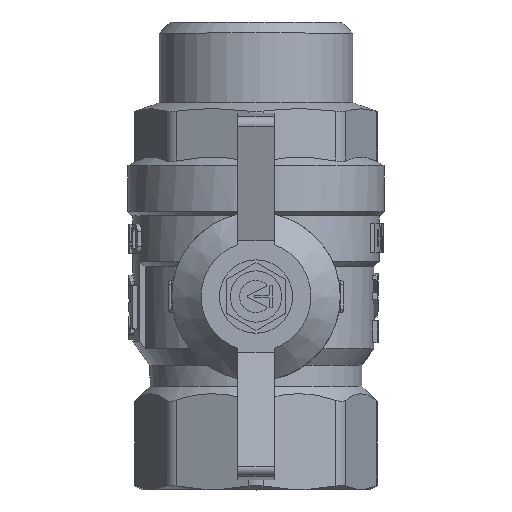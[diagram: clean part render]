
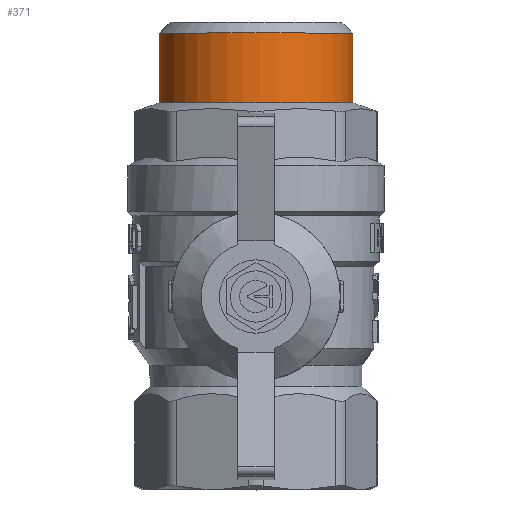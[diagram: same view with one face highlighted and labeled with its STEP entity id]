
A CAD part, top view. The second image highlights one B-rep face of the part: STEP entity #371.
In plain terms, the highlighted cylindrical face has radius 13.22 mm (diameter 26.441 mm), a full revolution.
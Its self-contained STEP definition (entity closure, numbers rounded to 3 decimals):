
#371=ADVANCED_FACE('',(#2688,#2690),#2692,.T.);
#2688=FACE_OUTER_BOUND('',#2689,.T.);
#2689=EDGE_LOOP('',(#4403));
#2690=FACE_OUTER_BOUND('',#2691,.T.);
#2691=EDGE_LOOP('',(#4404));
#2692=CYLINDRICAL_SURFACE('',#2693,13.221);
#2693=AXIS2_PLACEMENT_3D('',#2694,#2695,#2696);
#2694=CARTESIAN_POINT('',(0.,60.2,0.));
#2695=DIRECTION('',(0.,-1.,0.));
#2696=DIRECTION('',(-0.383,0.,-0.924));
#4403=ORIENTED_EDGE('',*,*,#5246,.T.);
#4404=ORIENTED_EDGE('',*,*,#5244,.F.);
#5244=EDGE_CURVE('',#6627,#6627,#6628,.T.);
#5246=EDGE_CURVE('',#6631,#6631,#6632,.T.);
#6627=VERTEX_POINT('',#14046);
#6628=CIRCLE('',#14047,13.221);
#6631=VERTEX_POINT('',#14056);
#6632=CIRCLE('',#14057,13.221);
#14046=CARTESIAN_POINT('',(-5.059,49.2,-12.214));
#14047=AXIS2_PLACEMENT_3D('',#14048,#14049,#14050);
#14048=CARTESIAN_POINT('',(0.,49.2,0.));
#14049=DIRECTION('',(0.,-1.,0.));
#14050=DIRECTION('',(-0.383,0.,-0.924));
#14056=CARTESIAN_POINT('',(-5.059,58.7,-12.214));
#14057=AXIS2_PLACEMENT_3D('',#14058,#14059,#14060);
#14058=CARTESIAN_POINT('',(0.,58.7,0.));
#14059=DIRECTION('',(0.,-1.,0.));
#14060=DIRECTION('',(-0.383,0.,-0.924));
